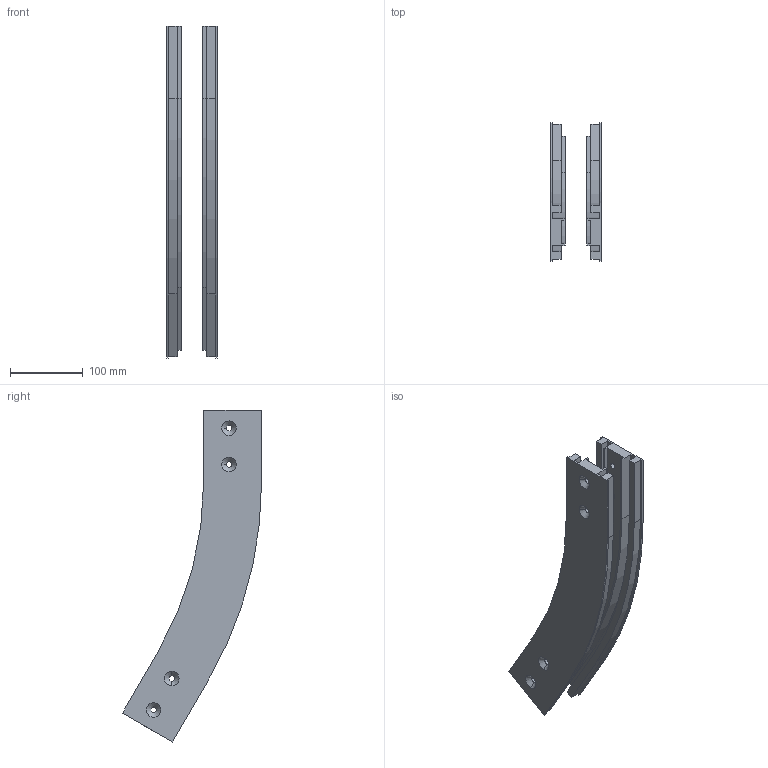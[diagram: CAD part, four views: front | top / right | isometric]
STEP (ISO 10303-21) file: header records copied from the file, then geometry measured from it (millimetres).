
FILE_DESCRIPTION (( 'STEP AP203' ), '1' );
FILE_NAME ('R1CV500-30.STEP', '2008-11-20T10:21:22', ( 'faber' ), ( '' ), 'SwSTEP 2.0', 'SolidWorks 2008', '' );
FILE_SCHEMA (( 'CONFIG_CONTROL_DESIGN' ));
Length unit declared in the file: millimetre
Products named in the file (1): R1CV500-30
Bounding box: 70 x 191.26 x 456.5 mm (x, y, z)
Volume: 831000.7 mm3; surface area: 243571.3 mm2
Topology: 2 solids, 2 shells, 116 faces, 328 edges, 216 vertices
Faces by surface type: plane 64, cylinder 36, cone 16
Entity records: 3871 total; most frequent: CARTESIAN_POINT 661, DIRECTION 658, ORIENTED_EDGE 656, EDGE_CURVE 328, VECTOR 232, LINE 232, VERTEX_POINT 216, AXIS2_PLACEMENT_3D 213
